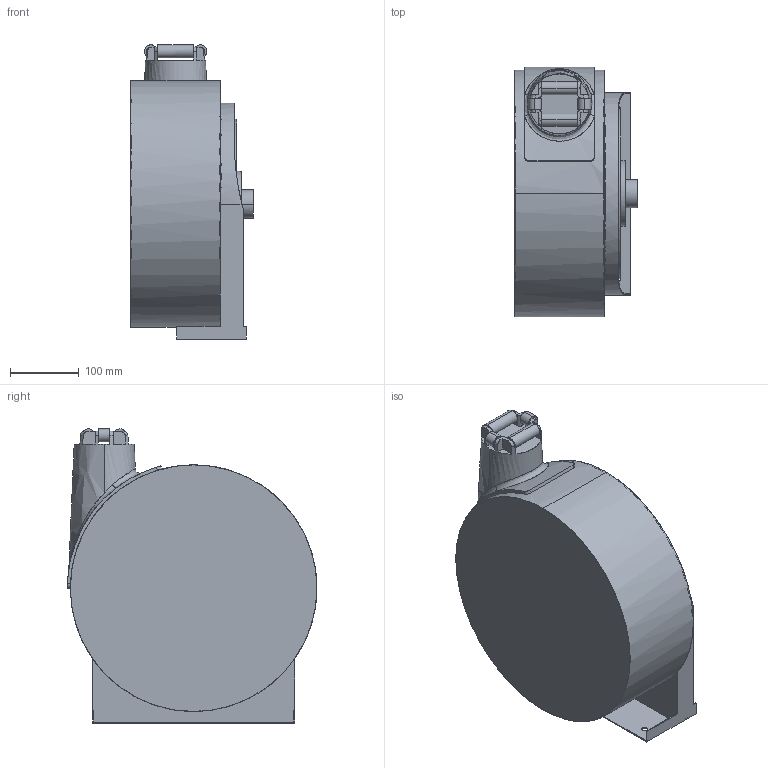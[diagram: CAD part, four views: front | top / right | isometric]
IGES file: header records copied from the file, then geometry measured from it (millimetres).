
Start section: Comment
Global section: file name: 5000 EXP TW.igs; native system:  By UGS Corp.; preprocessor: XPlus GENERIC/IGES 3.0; author: Author; organization: Title; date: 20120815.110429; units: millimetre
Bounding box: 177.94 x 363.54 x 428.17 mm (x, y, z)
Surface area: 1305926.3 mm2 (no closed solid volume)
Topology: 0 solids, 0 shells, 207 faces, 1090 edges, 1090 vertices
Faces by surface type: bspline 207
